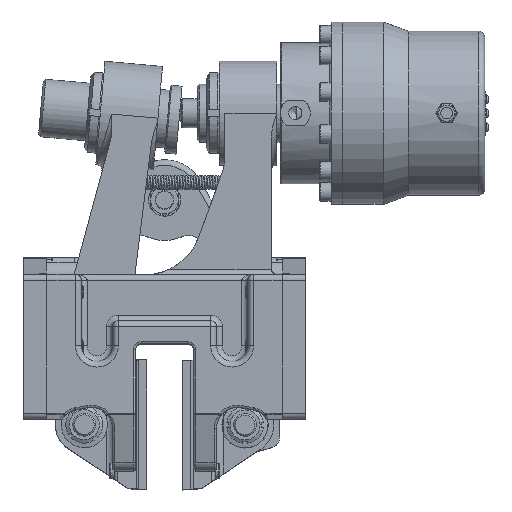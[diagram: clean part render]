
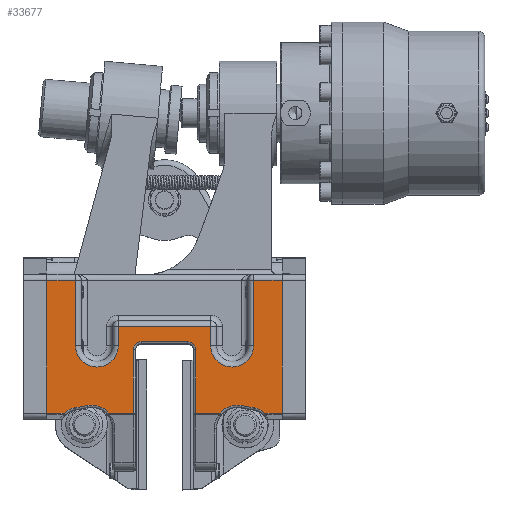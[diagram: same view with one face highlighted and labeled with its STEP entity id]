
A CAD part, top view. The second image highlights one B-rep face of the part: STEP entity #33677.
In plain terms, the highlighted planar face has unit normal (0, 0, 1).
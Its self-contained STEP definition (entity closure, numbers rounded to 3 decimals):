
#1657=PLANE('',#36470);
#3220=FACE_OUTER_BOUND('',#5132,.T.);
#5132=EDGE_LOOP('',(#25655,#25656,#25657,#25658,#25659,#25660,#25661,#25662,
#25663,#25664,#25665,#25666,#25667,#25668,#25669,#25670,#25671,#25672,#25673,
#25674,#25675,#25676,#25677,#25678,#25679,#25680));
#7131=LINE('',#60714,#9401);
#7336=LINE('',#61416,#9606);
#7338=LINE('',#61433,#9608);
#7341=LINE('',#61445,#9611);
#7343=LINE('',#61455,#9613);
#7345=LINE('',#61461,#9615);
#7346=LINE('',#61464,#9616);
#7348=LINE('',#61475,#9618);
#7374=LINE('',#61732,#9644);
#7375=LINE('',#61740,#9645);
#7376=LINE('',#61748,#9646);
#7382=LINE('',#61780,#9652);
#7383=LINE('',#61788,#9653);
#7387=LINE('',#61853,#9657);
#7399=LINE('',#61942,#9669);
#7400=LINE('',#61948,#9670);
#7401=LINE('',#61951,#9671);
#7402=LINE('',#61952,#9672);
#9401=VECTOR('',#42455,10.);
#9606=VECTOR('',#43030,5.);
#9608=VECTOR('',#43050,10.);
#9611=VECTOR('',#43065,10.);
#9613=VECTOR('',#43077,10.);
#9615=VECTOR('',#43083,5.);
#9616=VECTOR('',#43086,10.);
#9618=VECTOR('',#43100,10.);
#9644=VECTOR('',#43232,10.);
#9645=VECTOR('',#43243,10.);
#9646=VECTOR('',#43254,10.);
#9652=VECTOR('',#43288,10.);
#9653=VECTOR('',#43291,10.);
#9657=VECTOR('',#43329,10.);
#9669=VECTOR('',#43365,10.);
#9670=VECTOR('',#43370,10.);
#9671=VECTOR('',#43373,10.);
#9672=VECTOR('',#43374,10.);
#11578=CIRCLE('',#36345,18.5);
#11586=CIRCLE('',#36359,18.5);
#11617=CIRCLE('',#36418,7.);
#11620=CIRCLE('',#36423,7.);
#11636=CIRCLE('',#36455,20.);
#11639=CIRCLE('',#36460,18.);
#11643=CIRCLE('',#36471,18.);
#11644=CIRCLE('',#36472,20.);
#14080=VERTEX_POINT('',#60709);
#14081=VERTEX_POINT('',#60713);
#14304=VERTEX_POINT('',#61413);
#14305=VERTEX_POINT('',#61415);
#14307=VERTEX_POINT('',#61421);
#14311=VERTEX_POINT('',#61432);
#14313=VERTEX_POINT('',#61438);
#14315=VERTEX_POINT('',#61447);
#14319=VERTEX_POINT('',#61459);
#14320=VERTEX_POINT('',#61463);
#14322=VERTEX_POINT('',#61469);
#14346=VERTEX_POINT('',#61727);
#14347=VERTEX_POINT('',#61731);
#14348=VERTEX_POINT('',#61735);
#14349=VERTEX_POINT('',#61739);
#14350=VERTEX_POINT('',#61743);
#14351=VERTEX_POINT('',#61747);
#14359=VERTEX_POINT('',#61775);
#14360=VERTEX_POINT('',#61782);
#14364=VERTEX_POINT('',#61847);
#14365=VERTEX_POINT('',#61851);
#14374=VERTEX_POINT('',#61937);
#14375=VERTEX_POINT('',#61944);
#14376=VERTEX_POINT('',#61945);
#14377=VERTEX_POINT('',#61947);
#14378=VERTEX_POINT('',#61950);
#18026=EDGE_CURVE('',#14080,#14081,#7131,.T.);
#18337=EDGE_CURVE('',#14304,#14305,#7336,.T.);
#18345=EDGE_CURVE('',#14305,#14311,#7338,.T.);
#18348=EDGE_CURVE('',#14311,#14313,#11578,.T.);
#18352=EDGE_CURVE('',#14313,#14307,#7341,.T.);
#18357=EDGE_CURVE('',#14307,#14315,#7343,.T.);
#18360=EDGE_CURVE('',#14319,#14080,#7345,.T.);
#18361=EDGE_CURVE('',#14315,#14320,#7346,.T.);
#18364=EDGE_CURVE('',#14320,#14322,#11586,.T.);
#18367=EDGE_CURVE('',#14322,#14319,#7348,.T.);
#18422=EDGE_CURVE('',#14346,#14347,#7374,.T.);
#18424=EDGE_CURVE('',#14347,#14348,#11617,.T.);
#18426=EDGE_CURVE('',#14348,#14349,#7375,.T.);
#18428=EDGE_CURVE('',#14349,#14350,#11620,.T.);
#18430=EDGE_CURVE('',#14350,#14351,#7376,.T.);
#18445=EDGE_CURVE('',#14081,#14359,#7382,.T.);
#18447=EDGE_CURVE('',#14360,#14346,#7383,.T.);
#18459=EDGE_CURVE('',#14364,#14360,#11636,.T.);
#18461=EDGE_CURVE('',#14365,#14364,#7387,.T.);
#18463=EDGE_CURVE('',#14359,#14365,#11639,.T.);
#18481=EDGE_CURVE('',#14351,#14374,#7399,.T.);
#18482=EDGE_CURVE('',#14375,#14376,#11643,.T.);
#18483=EDGE_CURVE('',#14377,#14375,#7400,.T.);
#18484=EDGE_CURVE('',#14374,#14377,#11644,.T.);
#18485=EDGE_CURVE('',#14304,#14378,#7401,.T.);
#18486=EDGE_CURVE('',#14376,#14378,#7402,.T.);
#25655=ORIENTED_EDGE('',*,*,#18482,.F.);
#25656=ORIENTED_EDGE('',*,*,#18483,.F.);
#25657=ORIENTED_EDGE('',*,*,#18484,.F.);
#25658=ORIENTED_EDGE('',*,*,#18481,.F.);
#25659=ORIENTED_EDGE('',*,*,#18430,.F.);
#25660=ORIENTED_EDGE('',*,*,#18428,.F.);
#25661=ORIENTED_EDGE('',*,*,#18426,.F.);
#25662=ORIENTED_EDGE('',*,*,#18424,.F.);
#25663=ORIENTED_EDGE('',*,*,#18422,.F.);
#25664=ORIENTED_EDGE('',*,*,#18447,.F.);
#25665=ORIENTED_EDGE('',*,*,#18459,.F.);
#25666=ORIENTED_EDGE('',*,*,#18461,.F.);
#25667=ORIENTED_EDGE('',*,*,#18463,.F.);
#25668=ORIENTED_EDGE('',*,*,#18445,.F.);
#25669=ORIENTED_EDGE('',*,*,#18026,.F.);
#25670=ORIENTED_EDGE('',*,*,#18360,.F.);
#25671=ORIENTED_EDGE('',*,*,#18367,.F.);
#25672=ORIENTED_EDGE('',*,*,#18364,.F.);
#25673=ORIENTED_EDGE('',*,*,#18361,.F.);
#25674=ORIENTED_EDGE('',*,*,#18357,.F.);
#25675=ORIENTED_EDGE('',*,*,#18352,.F.);
#25676=ORIENTED_EDGE('',*,*,#18348,.F.);
#25677=ORIENTED_EDGE('',*,*,#18345,.F.);
#25678=ORIENTED_EDGE('',*,*,#18337,.F.);
#25679=ORIENTED_EDGE('',*,*,#18485,.T.);
#25680=ORIENTED_EDGE('',*,*,#18486,.F.);
#33677=ADVANCED_FACE('',(#3220),#1657,.T.);
#36345=AXIS2_PLACEMENT_3D('',#61439,#43056,#43057);
#36359=AXIS2_PLACEMENT_3D('',#61470,#43092,#43093);
#36418=AXIS2_PLACEMENT_3D('',#61736,#43237,#43238);
#36423=AXIS2_PLACEMENT_3D('',#61744,#43248,#43249);
#36455=AXIS2_PLACEMENT_3D('',#61849,#43323,#43324);
#36460=AXIS2_PLACEMENT_3D('',#61856,#43334,#43335);
#36470=AXIS2_PLACEMENT_3D('',#61943,#43366,#43367);
#36471=AXIS2_PLACEMENT_3D('',#61946,#43368,#43369);
#36472=AXIS2_PLACEMENT_3D('',#61949,#43371,#43372);
#42455=DIRECTION('',(0.,-1.,0.));
#43030=DIRECTION('',(1.,0.,0.));
#43050=DIRECTION('',(0.,-1.,0.));
#43056=DIRECTION('center_axis',(0.,0.,1.));
#43057=DIRECTION('ref_axis',(0.,-1.,0.));
#43065=DIRECTION('',(0.,1.,0.));
#43077=DIRECTION('',(1.,0.,0.));
#43083=DIRECTION('',(1.,0.,0.));
#43086=DIRECTION('',(0.,-1.,0.));
#43092=DIRECTION('center_axis',(0.,0.,1.));
#43093=DIRECTION('ref_axis',(0.,-1.,0.));
#43100=DIRECTION('',(0.,1.,0.));
#43232=DIRECTION('',(0.,1.,0.));
#43237=DIRECTION('center_axis',(0.,0.,1.));
#43238=DIRECTION('ref_axis',(0.707,0.707,0.));
#43243=DIRECTION('',(-1.,0.,0.));
#43248=DIRECTION('center_axis',(0.,0.,1.));
#43249=DIRECTION('ref_axis',(-0.707,0.707,0.));
#43254=DIRECTION('',(0.,-1.,0.));
#43288=DIRECTION('',(-1.,0.,0.));
#43291=DIRECTION('',(-1.,0.,0.));
#43323=DIRECTION('center_axis',(0.,0.,1.));
#43324=DIRECTION('ref_axis',(-0.29,0.957,0.));
#43329=DIRECTION('',(-0.985,0.174,0.));
#43334=DIRECTION('center_axis',(0.,0.,1.));
#43335=DIRECTION('ref_axis',(0.388,0.922,0.));
#43365=DIRECTION('',(-1.,0.,0.));
#43366=DIRECTION('center_axis',(0.,0.,1.));
#43367=DIRECTION('ref_axis',(1.,0.,0.));
#43368=DIRECTION('center_axis',(0.,0.,1.));
#43369=DIRECTION('ref_axis',(-0.388,0.922,0.));
#43370=DIRECTION('',(-0.985,-0.174,0.));
#43371=DIRECTION('center_axis',(0.,0.,1.));
#43372=DIRECTION('ref_axis',(0.29,0.957,0.));
#43373=DIRECTION('',(0.,-1.,0.));
#43374=DIRECTION('',(-1.,0.,0.));
#60709=CARTESIAN_POINT('',(102.,165.,285.));
#60713=CARTESIAN_POINT('',(102.,50.,285.));
#60714=CARTESIAN_POINT('',(102.,165.,285.));
#61413=CARTESIAN_POINT('',(-102.,165.,285.));
#61415=CARTESIAN_POINT('',(-77.,165.,285.));
#61416=CARTESIAN_POINT('',(102.,165.,285.));
#61421=CARTESIAN_POINT('',(-40.,125.,285.));
#61432=CARTESIAN_POINT('',(-77.,108.5,285.));
#61433=CARTESIAN_POINT('',(-77.,99.315,285.));
#61438=CARTESIAN_POINT('',(-40.,108.5,285.));
#61439=CARTESIAN_POINT('Origin',(-58.5,108.5,285.));
#61445=CARTESIAN_POINT('',(-40.,107.565,285.));
#61447=CARTESIAN_POINT('',(40.,125.,285.));
#61455=CARTESIAN_POINT('',(20.,125.,285.));
#61459=CARTESIAN_POINT('',(77.,165.,285.));
#61461=CARTESIAN_POINT('',(0.,165.,285.));
#61463=CARTESIAN_POINT('',(40.,108.5,285.));
#61464=CARTESIAN_POINT('',(40.,99.315,285.));
#61469=CARTESIAN_POINT('',(77.,108.5,285.));
#61470=CARTESIAN_POINT('Origin',(58.5,108.5,285.));
#61475=CARTESIAN_POINT('',(77.,127.565,285.));
#61727=CARTESIAN_POINT('',(27.,50.,285.));
#61731=CARTESIAN_POINT('',(27.,105.,285.));
#61732=CARTESIAN_POINT('',(27.,97.565,285.));
#61735=CARTESIAN_POINT('',(20.,112.,285.));
#61736=CARTESIAN_POINT('Origin',(20.,105.,285.));
#61739=CARTESIAN_POINT('',(-20.,112.,285.));
#61740=CARTESIAN_POINT('',(-10.,112.,285.));
#61743=CARTESIAN_POINT('',(-27.,105.,285.));
#61744=CARTESIAN_POINT('Origin',(-20.,105.,285.));
#61747=CARTESIAN_POINT('',(-27.,50.,285.));
#61748=CARTESIAN_POINT('',(-27.,45.065,285.));
#61775=CARTESIAN_POINT('',(86.95,50.,285.));
#61780=CARTESIAN_POINT('',(-102.,50.,285.));
#61782=CARTESIAN_POINT('',(47.801,50.,285.));
#61788=CARTESIAN_POINT('',(-102.,50.,285.));
#61847=CARTESIAN_POINT('',(66.478,56.695,285.));
#61849=CARTESIAN_POINT('Origin',(63.,37.,285.));
#61851=CARTESIAN_POINT('',(77.63,54.726,285.));
#61853=CARTESIAN_POINT('',(31.381,62.893,285.));
#61856=CARTESIAN_POINT('Origin',(74.5,37.,285.));
#61937=CARTESIAN_POINT('',(-47.801,50.,285.));
#61942=CARTESIAN_POINT('',(-102.,50.,285.));
#61943=CARTESIAN_POINT('Origin',(0.,90.129,285.));
#61944=CARTESIAN_POINT('',(-77.63,54.726,285.));
#61945=CARTESIAN_POINT('',(-86.95,50.,285.));
#61946=CARTESIAN_POINT('Origin',(-74.5,37.,285.));
#61947=CARTESIAN_POINT('',(-66.478,56.695,285.));
#61948=CARTESIAN_POINT('',(-36.958,61.909,285.));
#61949=CARTESIAN_POINT('Origin',(-63.,37.,285.));
#61950=CARTESIAN_POINT('',(-102.,50.,285.));
#61951=CARTESIAN_POINT('',(-102.,45.,285.));
#61952=CARTESIAN_POINT('',(-102.,50.,285.));
